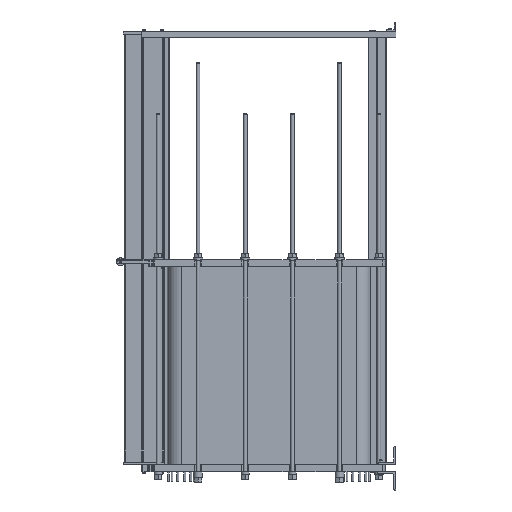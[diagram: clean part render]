
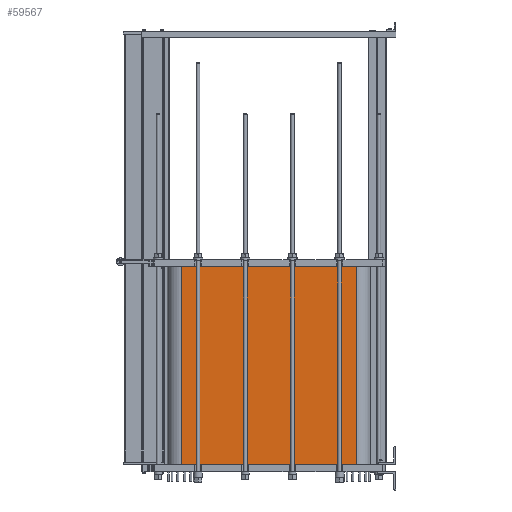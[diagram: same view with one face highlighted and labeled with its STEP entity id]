
A CAD part, left-side view. The second image highlights one B-rep face of the part: STEP entity #59567.
In plain terms, the highlighted planar face has unit normal (-1, 0, 0).
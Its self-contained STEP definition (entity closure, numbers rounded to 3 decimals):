
#44284=CARTESIAN_POINT('',(-375.0,-967.0,0.0));
#44285=VERTEX_POINT('',#44284);
#44293=CARTESIAN_POINT('',(-375.,967.0,0.0));
#44294=VERTEX_POINT('',#44293);
#44295=CARTESIAN_POINT('',(-375.0,-967.0,0.0));
#44296=DIRECTION('',(0.0,1.0,0.0));
#44297=VECTOR('',#44296,1934.0);
#44298=LINE('',#44295,#44297);
#44299=EDGE_CURVE('',#44285,#44294,#44298,.T.);
#59179=CARTESIAN_POINT('',(-375.,967.0,2200.0));
#59180=VERTEX_POINT('',#59179);
#59188=CARTESIAN_POINT('',(-375.0,-967.0,2200.0));
#59189=VERTEX_POINT('',#59188);
#59190=CARTESIAN_POINT('',(-375.,967.0,2200.0));
#59191=DIRECTION('',(0.0,-1.0,0.0));
#59192=VECTOR('',#59191,1934.0);
#59193=LINE('',#59190,#59192);
#59194=EDGE_CURVE('',#59180,#59189,#59193,.T.);
#59546=CARTESIAN_POINT('',(-375.0,-967.0,0.0));
#59547=DIRECTION('',(-1.0,0.0,0.0));
#59548=DIRECTION('',(0.0,0.0,1.0));
#59549=AXIS2_PLACEMENT_3D('',#59546,#59547,#59548);
#59550=PLANE('',#59549);
#59551=ORIENTED_EDGE('',*,*,#59194,.F.);
#59552=CARTESIAN_POINT('',(-375.,967.0,0.0));
#59553=DIRECTION('',(0.0,0.0,1.0));
#59554=VECTOR('',#59553,2200.0);
#59555=LINE('',#59552,#59554);
#59556=EDGE_CURVE('',#44294,#59180,#59555,.T.);
#59557=ORIENTED_EDGE('',*,*,#59556,.F.);
#59558=ORIENTED_EDGE('',*,*,#44299,.F.);
#59559=CARTESIAN_POINT('',(-375.0,-967.0,0.0));
#59560=DIRECTION('',(0.0,0.0,1.0));
#59561=VECTOR('',#59560,2200.0);
#59562=LINE('',#59559,#59561);
#59563=EDGE_CURVE('',#44285,#59189,#59562,.T.);
#59564=ORIENTED_EDGE('',*,*,#59563,.T.);
#59565=EDGE_LOOP('',(#59551,#59557,#59558,#59564));
#59566=FACE_OUTER_BOUND('',#59565,.T.);
#59567=ADVANCED_FACE('',(#59566),#59550,.T.);
